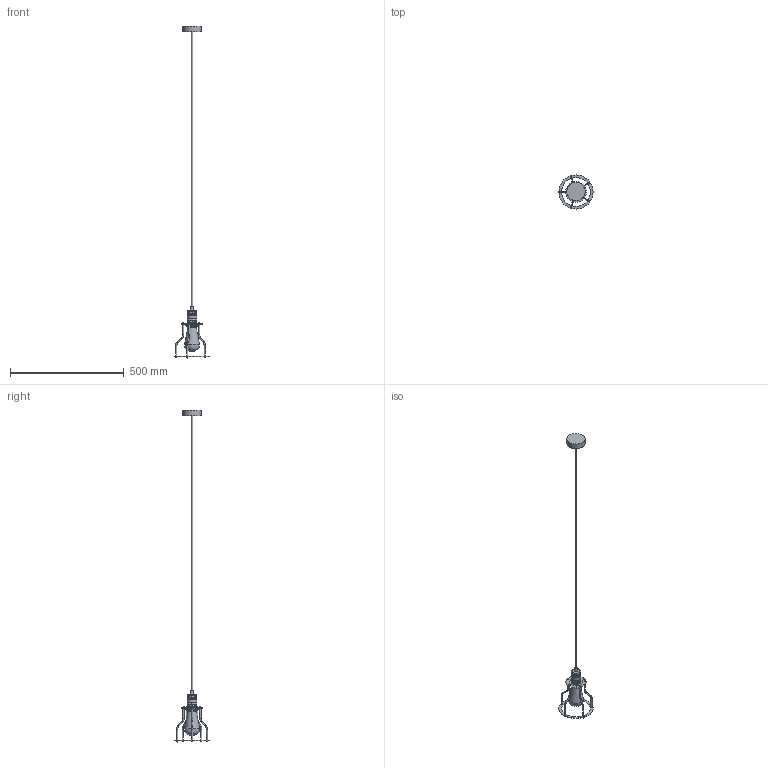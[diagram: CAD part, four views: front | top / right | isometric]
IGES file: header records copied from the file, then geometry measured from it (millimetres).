
Start section: SolidWorks IGES file using analytic representation for surfaces
Global section: file name: X:\PRODUKT\Modele 3D_WWW\_KOLEKCJE WWW\WORKSHOP\WORKSHOP-B-6336\WORKSHOP-B-6336.IGS; native system: SolidWorks 2021; preprocessor: SolidWorks 2021; author: gabriela.tworek; date: 221117.085400; units: millimetre
Bounding box: 150 x 150 x 1456.3 mm (x, y, z)
Surface area: 137082.9 mm2 (no closed solid volume)
Topology: 0 solids, 0 shells, 337 faces, 1345 edges, 1244 vertices
Faces by surface type: bspline 212, revolution 125
